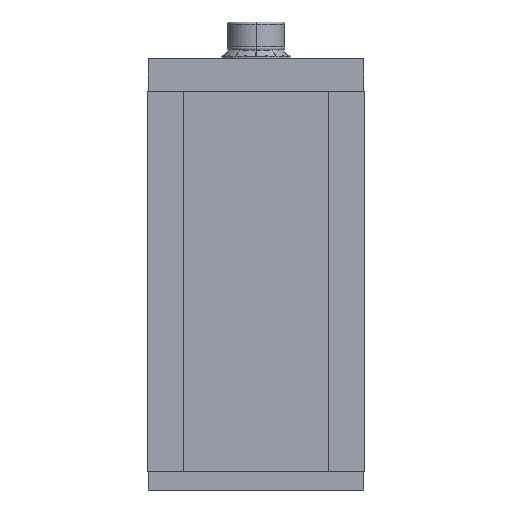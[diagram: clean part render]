
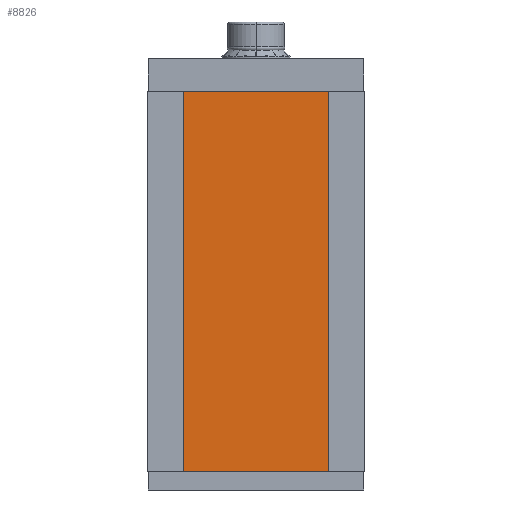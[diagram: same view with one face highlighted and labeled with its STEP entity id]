
A CAD part, front view. The second image highlights one B-rep face of the part: STEP entity #8826.
In plain terms, the highlighted planar face has unit normal (0, -1, 0).
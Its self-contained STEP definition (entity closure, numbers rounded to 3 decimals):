
#190 = EDGE_CURVE ( 'NONE', #1954, #6797, #2201, .T. ) ;
#1616 = EDGE_CURVE ( 'NONE', #6797, #9036, #7860, .T. ) ;
#1954 = VERTEX_POINT ( 'NONE', #8183 ) ;
#2189 = EDGE_CURVE ( 'NONE', #1954, #3258, #8277, .T. ) ;
#2201 = LINE ( 'NONE', #2202, #2203 ) ;
#2202 = CARTESIAN_POINT ( 'NONE',  ( -41.155, 0., 105. ) ) ;
#2203 = VECTOR ( 'NONE', #2204, 1000. ) ;
#2204 = DIRECTION ( 'NONE',  ( 1., 0., 0. ) ) ;
#2901 = CARTESIAN_POINT ( 'NONE',  ( -41.155, 0., -105. ) ) ;
#3258 = VERTEX_POINT ( 'NONE', #2901 ) ;
#5483 = CARTESIAN_POINT ( 'NONE',  ( 41.155, 0., 105. ) ) ;
#5643 = ORIENTED_EDGE ( 'NONE', *, *, #2189, .T. ) ;
#6082 = LINE ( 'NONE', #6083, #6091 ) ;
#6083 = CARTESIAN_POINT ( 'NONE',  ( -41.155, 0., -105. ) ) ;
#6091 = VECTOR ( 'NONE', #6092, 1000. ) ;
#6092 = DIRECTION ( 'NONE',  ( 1., 0., 0. ) ) ;
#6641 = ORIENTED_EDGE ( 'NONE', *, *, #190, .F. ) ;
#6752 = FACE_OUTER_BOUND ( 'NONE', #8603, .T. ) ;
#6755 = PLANE ( 'NONE',  #6756 ) ;
#6756 = AXIS2_PLACEMENT_3D ( 'NONE', #6757, #6758, #6759 ) ;
#6757 = CARTESIAN_POINT ( 'NONE',  ( -41.155, 0., 105. ) ) ;
#6758 = DIRECTION ( 'NONE',  ( 0., 1., 0. ) ) ;
#6759 = DIRECTION ( 'NONE',  ( 0., 0., 1. ) ) ;
#6797 = VERTEX_POINT ( 'NONE', #5483 ) ;
#7184 = ORIENTED_EDGE ( 'NONE', *, *, #1616, .F. ) ;
#7442 = CARTESIAN_POINT ( 'NONE',  ( 41.155, 0., -105. ) ) ;
#7714 = EDGE_CURVE ( 'NONE', #3258, #9036, #6082, .T. ) ;
#7860 = LINE ( 'NONE', #7863, #7864 ) ;
#7863 = CARTESIAN_POINT ( 'NONE',  ( 41.155, 0., 105. ) ) ;
#7864 = VECTOR ( 'NONE', #7865, 1000. ) ;
#7865 = DIRECTION ( 'NONE',  ( 0., 0., -1. ) ) ;
#8076 = ORIENTED_EDGE ( 'NONE', *, *, #7714, .T. ) ;
#8183 = CARTESIAN_POINT ( 'NONE',  ( -41.155, 0., 105. ) ) ;
#8277 = LINE ( 'NONE', #8278, #8279 ) ;
#8278 = CARTESIAN_POINT ( 'NONE',  ( -41.155, 0., 105. ) ) ;
#8279 = VECTOR ( 'NONE', #8280, 1000. ) ;
#8280 = DIRECTION ( 'NONE',  ( 0., 0., -1. ) ) ;
#8603 = EDGE_LOOP ( 'NONE', ( #8076, #7184, #6641, #5643 ) ) ;
#8826 = ADVANCED_FACE ( 'NONE', ( #6752 ), #6755, .F. ) ;
#9036 = VERTEX_POINT ( 'NONE', #7442 ) ;
